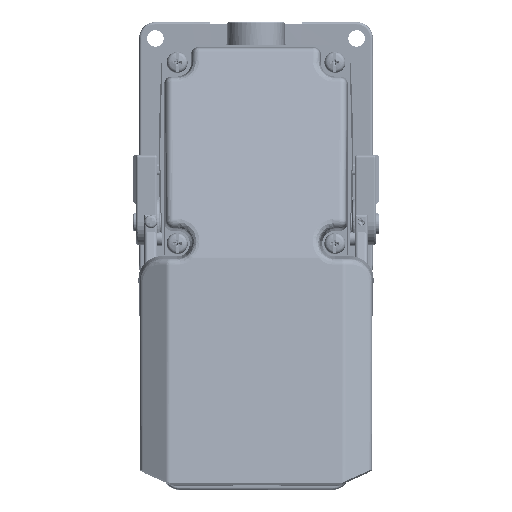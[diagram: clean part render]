
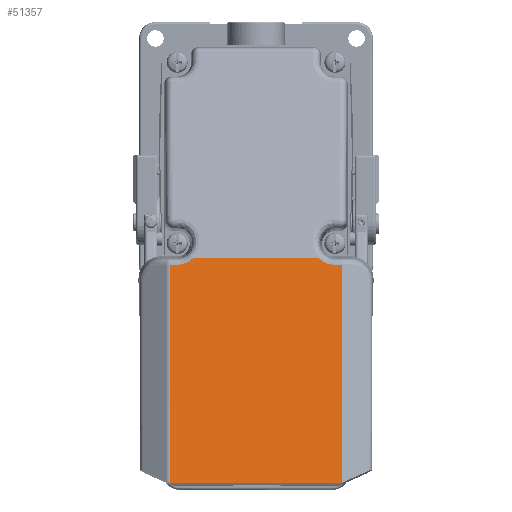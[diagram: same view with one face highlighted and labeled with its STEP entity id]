
A CAD part, top view. The second image highlights one B-rep face of the part: STEP entity #51357.
In plain terms, the highlighted planar face has unit normal (0, 0.174, 0.985).
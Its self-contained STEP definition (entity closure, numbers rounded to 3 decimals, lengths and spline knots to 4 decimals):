
#1106=DIRECTION('',(-1.,0.,0.));
#1107=VECTOR('',#1106,2.1278);
#1108=CARTESIAN_POINT('',(3.1407,3.8898,
-0.6671));
#1109=LINE('',#1108,#1107);
#2084=DIRECTION('',(-1.,0.,0.));
#2085=VECTOR('',#2084,0.121);
#2086=CARTESIAN_POINT('',(0.75,3.7831,
-0.6483));
#2087=LINE('',#2086,#2085);
#2088=CARTESIAN_POINT('',(1.0129,3.8898,
-0.6671));
#2089=CARTESIAN_POINT('',(0.9947,3.8722,
-0.664));
#2090=CARTESIAN_POINT('',(0.9558,3.8416,
-0.6586));
#2091=CARTESIAN_POINT('',(0.8928,3.8087,
-0.6528));
#2092=CARTESIAN_POINT('',(0.8204,3.7873,
-0.649));
#2093=CARTESIAN_POINT('',(0.7736,3.7831,
-0.6483));
#2094=CARTESIAN_POINT('',(0.75,3.7831,
-0.6483));
#3636=CARTESIAN_POINT('',(3.4036,3.7831,
-0.6483));
#3637=CARTESIAN_POINT('',(3.3801,3.7831,
-0.6483));
#3638=CARTESIAN_POINT('',(3.3335,3.7872,
-0.649));
#3639=CARTESIAN_POINT('',(3.2609,3.8086,
-0.6528));
#3640=CARTESIAN_POINT('',(3.198,3.8414,
-0.6586));
#3641=CARTESIAN_POINT('',(3.1589,3.8721,
-0.664));
#3642=CARTESIAN_POINT('',(3.1407,3.8898,
-0.6671));
#3644=DIRECTION('',(-1.,0.,0.));
#3645=VECTOR('',#3644,0.121);
#3646=CARTESIAN_POINT('',(3.5245,3.7831,
-0.6483));
#3647=LINE('',#3646,#3645);
#3784=DIRECTION('',(0.866,0.492,-0.087));
#3785=VECTOR('',#3784,0.0024);
#3786=CARTESIAN_POINT('',(3.5225,0.1088,
-0.0004));
#3787=LINE('',#3786,#3785);
#3805=DIRECTION('',(1.,0.,0.));
#3806=VECTOR('',#3805,2.8914);
#3807=CARTESIAN_POINT('',(0.6311,0.1088,
-0.0004));
#3808=LINE('',#3807,#3806);
#4402=DIRECTION('',(0.866,-0.492,0.087));
#4403=VECTOR('',#4402,0.0024);
#4404=CARTESIAN_POINT('',(0.629,0.11,
-0.0006));
#4405=LINE('',#4404,#4403);
#4558=DIRECTION('',(0.,-0.985,0.174));
#4559=VECTOR('',#4558,3.7298);
#4560=CARTESIAN_POINT('',(0.629,3.7831,
-0.6483));
#4561=LINE('',#4560,#4559);
#4562=DIRECTION('',(0.,0.985,-0.174));
#4563=VECTOR('',#4562,3.7298);
#4564=CARTESIAN_POINT('',(3.5245,0.11,
-0.0006));
#4565=LINE('',#4564,#4563);
#42467=CARTESIAN_POINT('',(3.1407,3.8898,
-0.6671));
#42468=VERTEX_POINT('',#42467);
#42469=CARTESIAN_POINT('',(1.0129,3.8898,
-0.6671));
#42470=VERTEX_POINT('',#42469);
#42607=CARTESIAN_POINT('',(0.629,3.7831,
-0.6483));
#42608=VERTEX_POINT('',#42607);
#42609=CARTESIAN_POINT('',(0.75,3.7831,
-0.6483));
#42610=VERTEX_POINT('',#42609);
#42612=CARTESIAN_POINT('',(0.6311,0.1088,
-0.0004));
#42613=CARTESIAN_POINT('',(3.5225,0.1088,
-0.0004));
#42614=VERTEX_POINT('',#42612);
#42615=VERTEX_POINT('',#42613);
#42616=CARTESIAN_POINT('',(0.629,0.11,
-0.0006));
#42617=VERTEX_POINT('',#42616);
#42618=VERTEX_POINT('',#3636);
#42619=CARTESIAN_POINT('',(3.5245,3.7831,
-0.6483));
#42620=VERTEX_POINT('',#42619);
#42621=CARTESIAN_POINT('',(3.5245,0.11,
-0.0006));
#42622=VERTEX_POINT('',#42621);
#51339=CARTESIAN_POINT('',(2.0768,1.9993,
-0.3338));
#51340=DIRECTION('',(0.,0.174,0.985));
#51341=DIRECTION('',(0.,0.985,-0.174));
#51342=AXIS2_PLACEMENT_3D('',#51339,#51340,#51341);
#51343=PLANE('',#51342);
#51344=ORIENTED_EDGE('',*,*,#50355,.F.);
#51345=ORIENTED_EDGE('',*,*,#51081,.F.);
#51346=ORIENTED_EDGE('',*,*,#51334,.F.);
#51347=ORIENTED_EDGE('',*,*,#47998,.F.);
#51348=ORIENTED_EDGE('',*,*,#48034,.F.);
#51349=ORIENTED_EDGE('',*,*,#47098,.F.);
#51350=ORIENTED_EDGE('',*,*,#49994,.F.);
#51351=ORIENTED_EDGE('',*,*,#50006,.F.);
#51353=ORIENTED_EDGE('',*,*,#51352,.F.);
#51354=ORIENTED_EDGE('',*,*,#50327,.F.);
#51355=EDGE_LOOP('',(#51344,#51345,#51346,#51347,#51348,#51349,#51350,#51351,
#51353,#51354));
#51356=FACE_OUTER_BOUND('',#51355,.F.);
#51357=ADVANCED_FACE('',(#51356),#51343,.T.);
#2095=B_SPLINE_CURVE_WITH_KNOTS('',3,(#2088,#2089,#2090,#2091,#2092,#2093,
#2094),.UNSPECIFIED.,.F.,.F.,(4,1,1,1,4),(0.,0.25,0.5,0.75,1.),
.UNSPECIFIED.);
#3643=B_SPLINE_CURVE_WITH_KNOTS('',3,(#3636,#3637,#3638,#3639,#3640,#3641,
#3642),.UNSPECIFIED.,.F.,.F.,(4,1,1,1,4),(0.,0.25,0.5,0.75,1.),
.UNSPECIFIED.);
#47098=EDGE_CURVE('',#42468,#42470,#1109,.T.);
#47998=EDGE_CURVE('',#42610,#42608,#2087,.T.);
#48034=EDGE_CURVE('',#42470,#42610,#2095,.T.);
#49994=EDGE_CURVE('',#42618,#42468,#3643,.T.);
#50006=EDGE_CURVE('',#42620,#42618,#3647,.T.);
#50327=EDGE_CURVE('',#42615,#42622,#3787,.T.);
#50355=EDGE_CURVE('',#42614,#42615,#3808,.T.);
#51081=EDGE_CURVE('',#42617,#42614,#4405,.T.);
#51334=EDGE_CURVE('',#42608,#42617,#4561,.T.);
#51352=EDGE_CURVE('',#42622,#42620,#4565,.T.);
